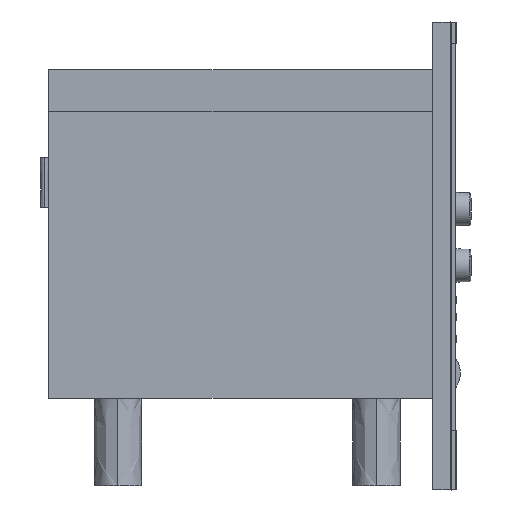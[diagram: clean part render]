
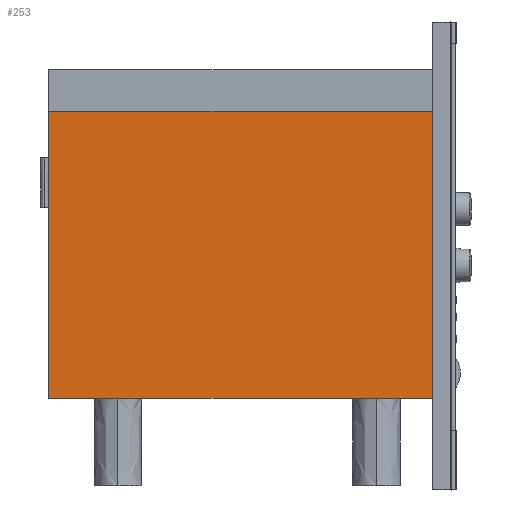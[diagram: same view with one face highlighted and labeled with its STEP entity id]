
A CAD part, front view. The second image highlights one B-rep face of the part: STEP entity #253.
In plain terms, the highlighted free-form (B-spline) face has degree [1, 1] with [2, 2] control points.
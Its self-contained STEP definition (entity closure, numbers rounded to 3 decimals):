
#253=ADVANCED_FACE('',(#382),#1589,.T.);
#382=FACE_OUTER_BOUND('',#513,.T.);
#513=EDGE_LOOP('',(#844,#845,#846,#847));
#844=ORIENTED_EDGE('',*,*,#1239,.F.);
#845=ORIENTED_EDGE('',*,*,#1240,.T.);
#846=ORIENTED_EDGE('',*,*,#1241,.T.);
#847=ORIENTED_EDGE('',*,*,#1236,.F.);
#1236=EDGE_CURVE('',#1448,#1450,#1779,.T.);
#1239=EDGE_CURVE('',#1452,#1448,#1782,.T.);
#1240=EDGE_CURVE('',#1452,#1453,#1783,.T.);
#1241=EDGE_CURVE('',#1453,#1450,#1784,.T.);
#1448=VERTEX_POINT('',#3898);
#1450=VERTEX_POINT('',#3900);
#1452=VERTEX_POINT('',#3902);
#1453=VERTEX_POINT('',#3903);
#1589=B_SPLINE_SURFACE_WITH_KNOTS('',1,1,((#3844,#3845),(#3846,#3847)),.UNSPECIFIED.,
.F.,.F.,.F.,(2,2),(2,2),(0.,1.),(0.,1.),.UNSPECIFIED.);
#1779=B_SPLINE_CURVE_WITH_KNOTS('',1,(#3776,#3777),.UNSPECIFIED.,.F.,.F.,
(2,2),(0.,1.),.UNSPECIFIED.);
#1782=B_SPLINE_CURVE_WITH_KNOTS('',1,(#3782,#3783),.UNSPECIFIED.,.F.,.F.,
(2,2),(0.,1.),.UNSPECIFIED.);
#1783=B_SPLINE_CURVE_WITH_KNOTS('',1,(#3784,#3785),.UNSPECIFIED.,.F.,.F.,
(2,2),(0.,1.),.UNSPECIFIED.);
#1784=B_SPLINE_CURVE_WITH_KNOTS('',1,(#3786,#3787),.UNSPECIFIED.,.F.,.F.,
(2,2),(0.,1.),.UNSPECIFIED.);
#3776=CARTESIAN_POINT('',(8.308,-257.282,94.952));
#3777=CARTESIAN_POINT('',(-378.692,-257.282,94.952));
#3782=CARTESIAN_POINT('',(8.308,-257.282,377.046));
#3783=CARTESIAN_POINT('',(8.308,-257.282,94.952));
#3784=CARTESIAN_POINT('',(8.308,-257.282,377.046));
#3785=CARTESIAN_POINT('',(-378.692,-257.282,377.046));
#3786=CARTESIAN_POINT('',(-378.692,-257.282,377.046));
#3787=CARTESIAN_POINT('',(-378.692,-257.282,94.952));
#3844=CARTESIAN_POINT('',(8.308,-257.282,377.046));
#3845=CARTESIAN_POINT('',(8.308,-257.282,94.952));
#3846=CARTESIAN_POINT('',(-378.692,-257.282,377.046));
#3847=CARTESIAN_POINT('',(-378.692,-257.282,94.952));
#3898=CARTESIAN_POINT('',(8.308,-257.282,94.952));
#3900=CARTESIAN_POINT('',(-378.692,-257.282,94.952));
#3902=CARTESIAN_POINT('',(8.308,-257.282,377.046));
#3903=CARTESIAN_POINT('',(-378.692,-257.282,377.046));
